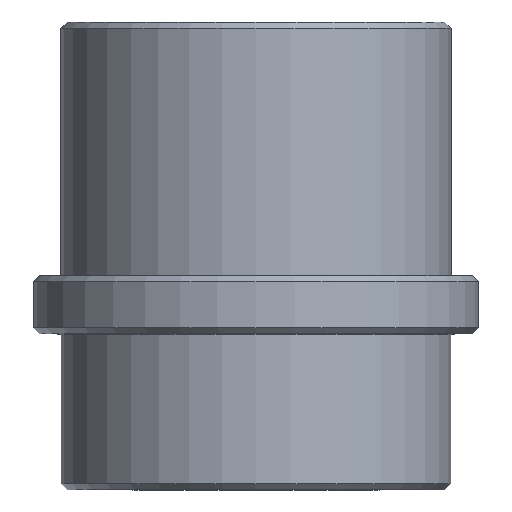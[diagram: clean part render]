
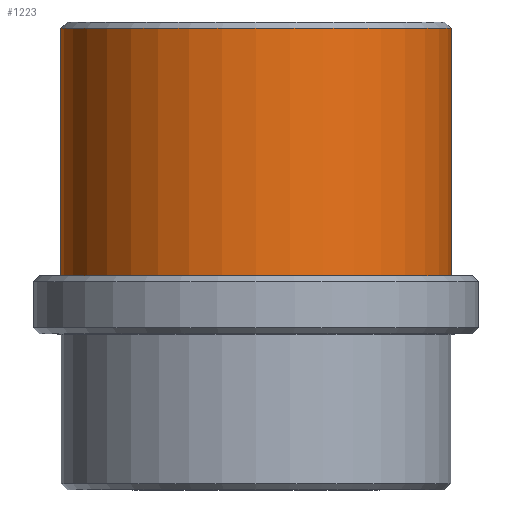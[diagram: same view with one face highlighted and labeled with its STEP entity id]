
A CAD part, front view. The second image highlights one B-rep face of the part: STEP entity #1223.
In plain terms, the highlighted cylindrical face has radius 15.881 mm (diameter 31.763 mm), a partial arc.
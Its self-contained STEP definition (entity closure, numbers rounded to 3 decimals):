
#314=CARTESIAN_POINT('',(0.,0.,24.9));
#315=DIRECTION('',(0.,0.,-1.));
#316=DIRECTION('',(1.,0.,0.));
#317=AXIS2_PLACEMENT_3D('',#314,#315,#316);
#319=DIRECTION('',(0.,0.,-1.));
#320=VECTOR('',#319,20.15);
#321=CARTESIAN_POINT('',(15.881,0.,
24.9));
#322=LINE('',#321,#320);
#323=DIRECTION('',(0.,0.,-1.));
#324=VECTOR('',#323,20.15);
#325=CARTESIAN_POINT('',(-15.881,0.,
24.9));
#326=LINE('',#325,#324);
#995=CARTESIAN_POINT('',(0.,0.,4.75));
#996=DIRECTION('',(0.,0.,-1.));
#997=DIRECTION('',(1.,0.,0.));
#998=AXIS2_PLACEMENT_3D('',#995,#996,#997);
#1033=CARTESIAN_POINT('',(15.881,0.,4.75));
#1034=CARTESIAN_POINT('',(-15.881,0.,4.75));
#1035=VERTEX_POINT('',#1033);
#1036=VERTEX_POINT('',#1034);
#1067=CARTESIAN_POINT('',(15.881,0.,24.9));
#1068=CARTESIAN_POINT('',(-15.881,0.,24.9));
#1069=VERTEX_POINT('',#1067);
#1070=VERTEX_POINT('',#1068);
#1210=CARTESIAN_POINT('',(0.,0.,-14.605));
#1211=DIRECTION('',(0.,0.,1.));
#1212=DIRECTION('',(-1.,0.,0.));
#1213=AXIS2_PLACEMENT_3D('',#1210,#1211,#1212);
#1214=CYLINDRICAL_SURFACE('',#1213,15.881);
#1216=ORIENTED_EDGE('',*,*,#1215,.F.);
#1217=ORIENTED_EDGE('',*,*,#1205,.T.);
#1219=ORIENTED_EDGE('',*,*,#1218,.T.);
#1220=ORIENTED_EDGE('',*,*,#1201,.F.);
#1221=EDGE_LOOP('',(#1216,#1217,#1219,#1220));
#1222=FACE_OUTER_BOUND('',#1221,.F.);
#1223=ADVANCED_FACE('',(#1222),#1214,.T.);
#318=CIRCLE('',#317,15.881);
#999=CIRCLE('',#998,15.881);
#1201=EDGE_CURVE('',#1070,#1036,#326,.T.);
#1205=EDGE_CURVE('',#1069,#1035,#322,.T.);
#1215=EDGE_CURVE('',#1069,#1070,#318,.T.);
#1218=EDGE_CURVE('',#1035,#1036,#999,.T.);
